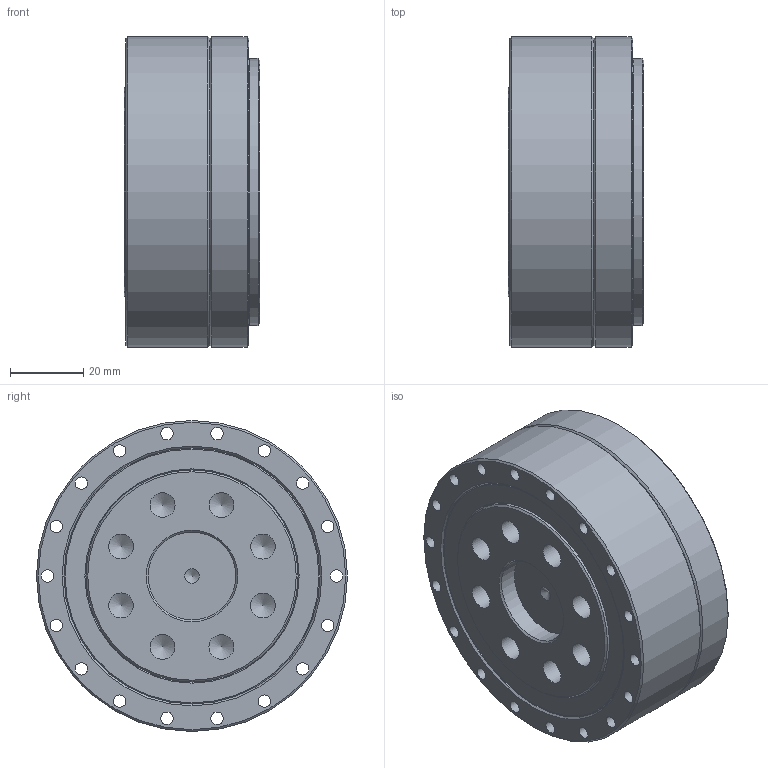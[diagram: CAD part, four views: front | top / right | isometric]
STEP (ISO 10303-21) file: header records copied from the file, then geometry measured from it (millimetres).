
FILE_DESCRIPTION (( 'STEP AP203' ), '1' );
FILE_NAME ('FCD-25-XXX-AJ.STEP', '2025-03-18T02:35:30', ( '微软用户' ), ( '微软中国' ), 'SwSTEP 2.0', 'SolidWorks 2016', '' );
FILE_SCHEMA (( 'CONFIG_CONTROL_DESIGN' ));
Length unit declared in the file: millimetre
Products named in the file (1): FCD-25-XXX-AJ
Bounding box: 37.1 x 85 x 85 mm (x, y, z)
Volume: 146972.6 mm3; surface area: 89646.9 mm2
Topology: 49 solids, 49 shells, 582 faces, 1371 edges, 895 vertices
Faces by surface type: plane 240, cylinder 203, cone 74, torus 42, sphere 23
Full cylindrical faces by diameter (mm): 1.6 x6, 2 x6, 2.4 x6, 2.5 x4, 3.4 x36, 3.8 x6, 4.2 x9, 4.3 x6, 5 x9, 5.5 x9, 6.8 x8, 8.5 x9, 17.2 x1, 20 x2, 24 x2, 40 x1, 44.819 x1, 45.219 x2, 49.321 x2, 49.619 x1, 50 x1, 54 x1, 55.5 x1, 56.8 x1, 57.426 x2, 58 x3, 60.934 x2, 61 x2, 62 x1, 62.134 x1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
Entity records: 14397 total; most frequent: DIRECTION 2690, CARTESIAN_POINT 2287, ORIENTED_EDGE 1886, AXIS2_PLACEMENT_3D 1164, EDGE_LOOP 1010, EDGE_CURVE 943, VERTEX_POINT 761, FACE_OUTER_BOUND 754
